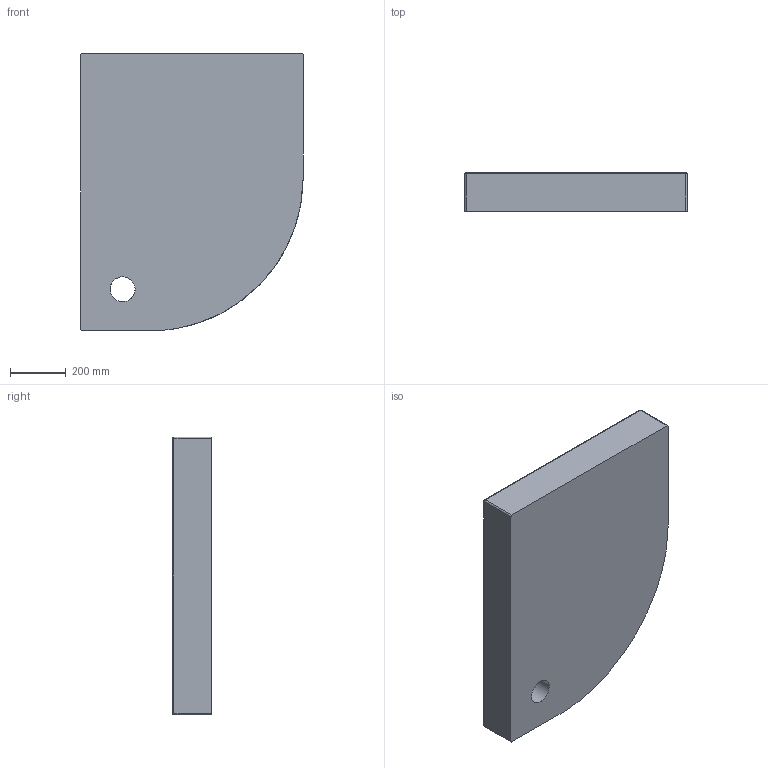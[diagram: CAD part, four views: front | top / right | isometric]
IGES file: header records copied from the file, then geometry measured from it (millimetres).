
Global section: file name: 83f68cdf-f659-4a20-95f9-10f46d130cff; native system: unknown; preprocessor: unknown; author: unknown; organization: unknown; date: 20200103.090110; units: millimetre
Bounding box: 800 x 140 x 1000 mm (x, y, z)
Volume: 88376450.4 mm3; surface area: 2010216.8 mm2
Topology: 1 solids, 1 shells, 47 faces, 103 edges, 59 vertices
Faces by surface type: bspline 47
